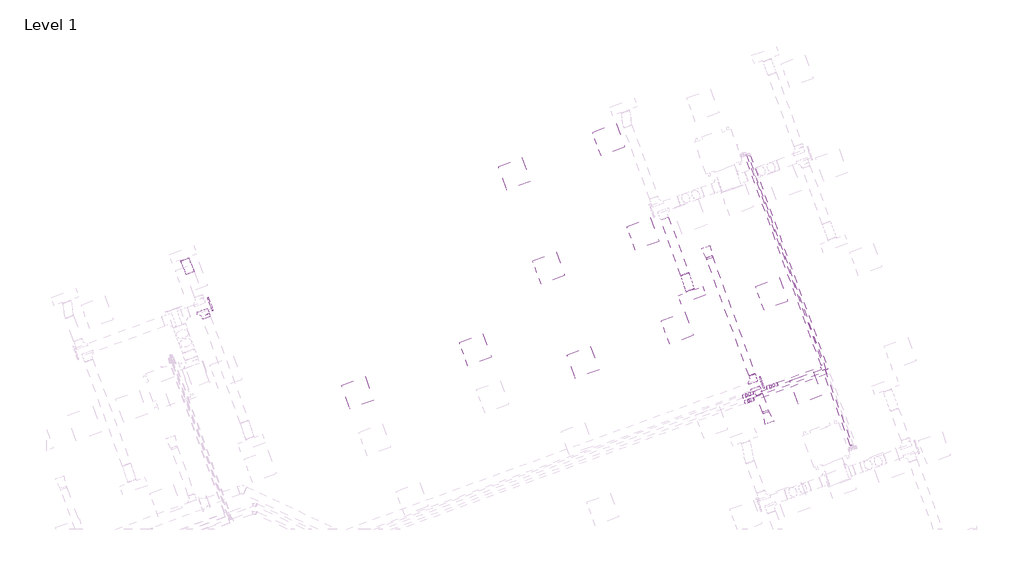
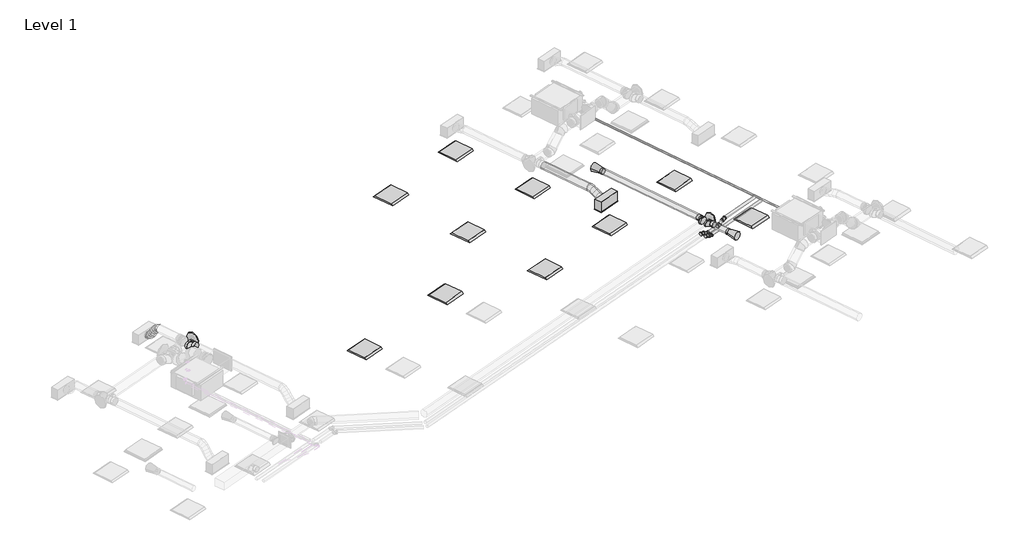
# One storey, part 28 of 30: 10 light fixtures, 9 pipe segments, 6 pipe fittings, 5 duct fittings, 5 duct segments, 3 air terminals.
"""IFC4 building model written with IfcOpenShell, lengths in millimetres."""

from ifc_helpers import new_model, si_unit, point, frame, frame_2d, origin, place, context, project, spatial, circle_curve, ellipse_curve, trimmed, segment, composite_curve, outline, extrude, transform, mapped, element, save
from ifc_brep_helpers import plane_surface, cylinder_surface, advanced_brep
from components import air_terminal_b88b8e4d, air_terminal_0d1c431e, supply_diffuser_with_plenum_linear_slot_hosted_2b730595, dw144_round_blank_end_standard_e3d0b58b, dw144_round_blank_end_standard_5beff049, dw144_round_shoe_branch_slip_joint1_standard_2_15a2edd8, dw144_round_shoe_branch_slip_joint1_standard_2_ce91aa06, dw144_round_shoe_branch_slip_joint1_standard_2_54bfcc3c, light_fixture_1c7c1157, light_fixture_b730b5ca, elbow_threaded_gmi_standard_e52ea759

model = new_model("IFC4")

# Units and contexts
model_context = context("Model", 3, world=origin())
ifc_project = project(units=[si_unit("LENGTHUNIT", "METRE", prefix="MILLI")], contexts=[model_context])

# Site, building, storey
site = spatial("IfcSite", under=ifc_project)
building = spatial("IfcBuilding", under=site)
storey = spatial("IfcBuildingStorey", under=building, Name="Level 1", Elevation=3900.0)

# Air terminals
placement = place(None, origin())
air_terminal_shape = air_terminal_b88b8e4d(model_context)
element("IfcAirTerminal", 1, ObjectType="Supply_Bell_Mouth_Grille : Supply_Bell_Mouth_Grille", at=placement, inside=storey, context=model_context, shape_type="MappedRepresentation", body=[
    mapped(air_terminal_shape, transform((58081.5319053, 19738.0197173, 7000.0), x_axis=(-0.3420201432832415, 0.9396926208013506, 0.0), y_axis=(-0.9396926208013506, -0.3420201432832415, 0.0), z_axis=(0.0, 0.0, 1.0))),
])
air_terminal_2_shape = air_terminal_0d1c431e(model_context)
element("IfcAirTerminal", 2, ObjectType="Supply_Bell_Mouth_Grille : Supply_Bell_Mouth_Grille", at=placement, inside=storey, context=model_context, shape_type="MappedRepresentation", body=[
    mapped(air_terminal_2_shape, transform((59441.0619748, 16002.7415496, 7000.0), x_axis=(0.3420201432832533, -0.9396926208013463, 0.0), y_axis=(0.9396926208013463, 0.3420201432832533, 0.0), z_axis=(0.0, 0.0, 1.0))),
])
supply_diffuser_with_plenum_linear_slot_hosted_shape = supply_diffuser_with_plenum_linear_slot_hosted_2b730595(model_context)
element("IfcAirTerminal", 3, ObjectType="Supply Diffuser with Plenum - Linear Slot - Hosted : 24\" x 8\"-200 In Inlet  4-Slot", at=placement, inside=storey, context=model_context, shape_type="MappedRepresentation", body=[
    mapped(supply_diffuser_with_plenum_linear_slot_hosted_shape, transform((57672.5704775, 18817.9253945, 6700.0), x_axis=(0.939692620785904, 0.342020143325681, 0.0), y_axis=(0.342020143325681, -0.939692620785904, 0.0), z_axis=(0.0, 0.0, -1.0))),
])

# Duct fittings
dw144_round_blank_end_standard_shape = dw144_round_blank_end_standard_e3d0b58b(model_context)
element("IfcDuctFitting", 4, ObjectType="DW144 Round Blank End : Standard", at=placement, inside=storey, context=model_context, shape_type="MappedRepresentation", body=[
    mapped(dw144_round_blank_end_standard_shape, transform((46143.4834138, 18600.4800046, 6972.2088531), x_axis=(0.9396926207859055, 0.3420201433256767, 0.0), y_axis=(-0.3420201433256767, 0.9396926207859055, 0.0), z_axis=(0.0, 0.0, 1.0))),
])
dw144_round_blank_end_standard_2_shape = dw144_round_blank_end_standard_5beff049(model_context)
element("IfcDuctFitting", 5, ObjectType="DW144 Round Blank End : Standard", at=placement, inside=storey, context=model_context, shape_type="MappedRepresentation", body=[
    mapped(dw144_round_blank_end_standard_2_shape, transform((59334.3056083, 16727.5734979, 7000.0), x_axis=(0.9396926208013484, 0.34202014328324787, 0.0), y_axis=(-0.34202014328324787, 0.9396926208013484, 0.0), z_axis=(0.0, 0.0, 1.0))),
])
dw144_round_shoe_branch_slip_joint1_standard_2_shape = dw144_round_shoe_branch_slip_joint1_standard_2_15a2edd8(model_context)
element("IfcDuctFitting", 6, ObjectType="DW144 Round Shoe Branch - Slip Joint1 : Standard 2", at=placement, inside=storey, context=model_context, shape_type="MappedRepresentation", body=[
    mapped(dw144_round_shoe_branch_slip_joint1_standard_2_shape, transform((46009.9908483, 18418.8704627, 6972.2088531), x_axis=(0.3420201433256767, -0.9396926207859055, 0.0), y_axis=(0.9396926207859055, 0.3420201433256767, 0.0), z_axis=(0.0, 0.0, 1.0))),
])
dw144_round_shoe_branch_slip_joint1_standard_2_2_shape = dw144_round_shoe_branch_slip_joint1_standard_2_ce91aa06(model_context)
element("IfcDuctFitting", 7, ObjectType="DW144 Round Shoe Branch - Slip Joint1 : Standard 2", at=placement, inside=storey, context=model_context, shape_type="MappedRepresentation", body=[
    mapped(dw144_round_shoe_branch_slip_joint1_standard_2_2_shape, transform((59161.4153402, 16771.0643638, 7000.0), x_axis=(-0.34202014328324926, 0.9396926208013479, 0.0), y_axis=(0.9396926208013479, 0.34202014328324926, 0.0), z_axis=(0.0, 0.0, -1.0))),
])
dw144_round_shoe_branch_slip_joint1_standard_2_3_shape = dw144_round_shoe_branch_slip_joint1_standard_2_54bfcc3c(model_context)
element("IfcDuctFitting", 8, ObjectType="DW144 Round Shoe Branch - Slip Joint1 : Standard 2", at=placement, inside=storey, context=model_context, shape_type="MappedRepresentation", body=[
    mapped(dw144_round_shoe_branch_slip_joint1_standard_2_3_shape, transform((59229.8193689, 16583.1258396, 7000.0), x_axis=(0.3420201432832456, -0.9396926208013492, 0.0), y_axis=(-0.9396926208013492, -0.3420201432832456, 0.0), z_axis=(0.0, 0.0, -1.0))),
])

# Duct segments
element("IfcDuctSegment", 9, ObjectType="DW144 Segmented Bend / Shoe Branch", at=placement, inside=storey, context=model_context, shape_type="SweptSolid", body=[
    extrude(outline(composite_curve([segment(trimmed(circle_curve(frame_2d((0.0, 100.0)), 100.0), [point((100.0, 100.0))], [point((0.0, 0.0))], False, "CARTESIAN"), True, "CONTINUOUS"), segment(trimmed(circle_curve(frame_2d((0.0, 100.0)), 100.0), [point((0.0, 0.0))], [point((-100.0, 100.0))], False, "CARTESIAN"), True, "CONTINUOUS"), segment(trimmed(circle_curve(frame_2d((0.0, 100.0)), 100.0), [point((-100.0, 100.0))], [point((0.0, 200.0))], False, "CARTESIAN"), True, "CONTINUOUS"), segment(trimmed(circle_curve(frame_2d((0.0, 100.0)), 100.0), [point((0.0, 200.0))], [point((100.0, 100.0))], False, "CARTESIAN"), True, "CONTINUOUS")], self_intersect=False)), frame((57501.7133926, 19321.5598874, 7072.2088531), z_axis=(-0.34202014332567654, 0.9396926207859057, 0.0), x_axis=(0.9396926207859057, 0.34202014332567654, 0.0)), (0.0, 0.0, 1.0), 1423.0964067),
])
element("IfcDuctSegment", 10, ObjectType="DW144 Segmented Bend / Shoe Branch", at=placement, inside=storey, context=model_context, shape_type="SweptSolid", body=[
    extrude(outline(composite_curve([segment(trimmed(circle_curve(frame_2d((0.0, 75.0)), 75.0), [point((75.0, 75.0))], [point((0.0, 0.0))], False, "CARTESIAN"), True, "CONTINUOUS"), segment(trimmed(circle_curve(frame_2d((0.0, 75.0)), 75.0), [point((0.0, 0.0))], [point((-75.0, 75.0))], False, "CARTESIAN"), True, "CONTINUOUS"), segment(trimmed(circle_curve(frame_2d((0.0, 75.0)), 75.0), [point((-75.0, 75.0))], [point((0.0, 150.0))], False, "CARTESIAN"), True, "CONTINUOUS"), segment(trimmed(circle_curve(frame_2d((0.0, 75.0)), 75.0), [point((0.0, 150.0))], [point((75.0, 75.0))], False, "CARTESIAN"), True, "CONTINUOUS")], self_intersect=False)), frame((59110.1123187, 16912.0182569, 7075.0), z_axis=(-0.3420201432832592, 0.9396926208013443, 0.0), x_axis=(0.9396926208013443, 0.3420201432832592, 0.0)), (0.0, 0.0, 1.0), 3007.3679391),
])
element("IfcDuctSegment", 11, ObjectType="DW144 Segmented Bend / Shoe Branch", at=placement, inside=storey, context=model_context, shape_type="SweptSolid", body=[
    extrude(outline(composite_curve([segment(trimmed(circle_curve(frame_2d((0.0, -75.0)), 75.0), [point((-74.9999999, -75.0))], [point((0.0, 0.0))], False, "CARTESIAN"), True, "CONTINUOUS"), segment(trimmed(circle_curve(frame_2d((0.0, -75.0)), 75.0), [point((0.0, 0.0))], [point((75.0, -75.0))], False, "CARTESIAN"), True, "CONTINUOUS"), segment(trimmed(circle_curve(frame_2d((0.0, -75.0)), 75.0), [point((75.0, -75.0))], [point((0.0, -150.0))], False, "CARTESIAN"), True, "CONTINUOUS"), segment(trimmed(circle_curve(frame_2d((0.0, -75.0)), 75.0), [point((0.0, -150.0))], [point((-74.9999999, -75.0))], False, "CARTESIAN"), True, "CONTINUOUS")], self_intersect=False)), frame((59441.0619748, 16002.7415496, 6925.0), z_axis=(-0.3420201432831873, 0.9396926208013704, 0.0), x_axis=(0.9396926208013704, 0.3420201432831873, 0.0)), (0.0, 0.0, 1.0), 467.6320609),
])
element("IfcDuctSegment", 12, ObjectType="Flex - Round", at=placement, inside=storey, context=model_context, shape_type="AdvancedBrep", body=[
    advanced_brep(
    [(45577.4216444, 19314.9641429, 6972.2088531), (45671.3909064, 19349.1661573, 6872.2088531), (45765.3601685, 19383.3681716, 6972.2088531), (45671.3909064, 19349.1661573, 7072.2088531), (45568.2396678, 19340.1914162, 6972.2088531), (45670.4182615, 19351.8384772, 6872.2088531), (45755.5423466, 19410.3424157, 6972.2088531), (45653.3637529, 19398.6953546, 7072.2088531), (45446.2008894, 19640.8463168, 6654.4), (45540.1701515, 19675.0483311, 6754.4), (45634.1394136, 19709.2503454, 6654.4), (45540.1701515, 19675.0483311, 6554.4), (45556.7426592, 19369.9313696, 6955.2577246), (45670.3653246, 19351.9754122, 6872.1308032), (45743.1589491, 19442.3752406, 6953.9508376), (45629.5362837, 19460.331198, 7037.077759), (45538.2397067, 19415.8828074, 6910.4446759), (45658.1337018, 19382.3522212, 6842.5065414), (45724.1702572, 19489.5329953, 6907.9613569), (45604.2762621, 19523.0635816, 6975.8994914), (45521.2301085, 19455.896393, 6848.7990481), (45644.2138299, 19415.0974971, 6792.0585982), (45706.9213474, 19530.1095404, 6845.4484239), (45583.9376261, 19570.9084362, 6902.1888738), (45504.6397105, 19494.1049479, 6781.1604292), (45627.6234319, 19453.3060521, 6724.4199793), (45690.3309494, 19568.3180954, 6777.809805), (45567.3472281, 19609.1169912, 6834.550255), (45487.3908007, 19534.681493, 6718.6474963), (45607.2847958, 19501.1509068, 6650.7093618), (45673.3213512, 19608.331681, 6716.1641773), (45553.4273561, 19641.8622672, 6784.1023118), (45468.4021089, 19581.8392477, 6672.6580156), (45582.0247743, 19563.8832903, 6589.5310941), (45654.8183988, 19654.2831187, 6671.3511285), (45541.1957334, 19672.2390762, 6754.47805), (45456.0187113, 19613.8720727, 6654.4), (45558.1973051, 19625.5191337, 6554.4), (45643.3213901, 19684.0230722, 6654.4), (45541.1427964, 19672.3760111, 6754.4)],
    [
        (0, 1, circle_curve(frame((45671.3909064, 19349.1661573, 6972.2088531), z_axis=(0.34202014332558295, -0.9396926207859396, 0.0), x_axis=(-0.9396926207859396, -0.34202014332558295, 0.0)), 100.0)),
        (1, 2, circle_curve(frame((45671.3909064, 19349.1661573, 6972.2088531), z_axis=(0.34202014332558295, -0.9396926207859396, 0.0), x_axis=(-0.9396926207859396, -0.34202014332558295, 0.0)), 100.0)),
        (2, 3, circle_curve(frame((45671.3909064, 19349.1661573, 6972.2088531), z_axis=(0.34202014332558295, -0.9396926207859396, 0.0), x_axis=(-0.9396926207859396, -0.34202014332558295, 0.0)), 100.0)),
        (3, 0, circle_curve(frame((45671.3909064, 19349.1661573, 6972.2088531), z_axis=(0.34202014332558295, -0.9396926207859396, 0.0), x_axis=(-0.9396926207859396, -0.34202014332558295, 0.0)), 100.0)),
        (0, 4),
        (4, 5, ellipse_curve(frame((45661.8910072, 19375.2669159, 6972.2088531), z_axis=(0.3403228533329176, -0.9086596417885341, 0.24190496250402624), x_axis=(0.04882477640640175, -0.23983797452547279, -0.9695843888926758)), 103.0653669, 100.0)),
        (5, 1),
        (5, 6, ellipse_curve(frame((45661.8910072, 19375.2669159, 6972.2088531), z_axis=(0.3403228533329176, -0.9086596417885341, 0.24190496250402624), x_axis=(0.04882477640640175, -0.23983797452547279, -0.9695843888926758)), 103.0653669, 100.0)),
        (6, 2),
        (6, 7, ellipse_curve(frame((45661.8910072, 19375.2669159, 6972.2088531), z_axis=(0.3403228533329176, -0.9086596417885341, 0.24190496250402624), x_axis=(0.04882477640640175, -0.23983797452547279, -0.9695843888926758)), 103.0653669, 100.0)),
        (7, 3),
        (7, 4, ellipse_curve(frame((45661.8910072, 19375.2669159, 6972.2088531), z_axis=(0.3403228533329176, -0.9086596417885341, 0.24190496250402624), x_axis=(0.04882477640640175, -0.23983797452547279, -0.9695843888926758)), 103.0653669, 100.0)),
        (8, 9, circle_curve(frame((45540.1701515, 19675.0483311, 6654.4), z_axis=(-0.34202014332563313, 0.9396926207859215, 0.0), x_axis=(-0.9396926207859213, -0.3420201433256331, 0.0)), 100.0)),
        (9, 10, circle_curve(frame((45540.1701515, 19675.0483311, 6654.4), z_axis=(-0.34202014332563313, 0.9396926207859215, 0.0), x_axis=(-0.9396926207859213, -0.3420201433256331, 0.0)), 100.0)),
        (10, 11, circle_curve(frame((45540.1701515, 19675.0483311, 6654.4), z_axis=(-0.34202014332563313, 0.9396926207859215, 0.0), x_axis=(-0.9396926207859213, -0.3420201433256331, 0.0)), 100.0)),
        (11, 8, circle_curve(frame((45540.1701515, 19675.0483311, 6654.4), z_axis=(-0.34202014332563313, 0.9396926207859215, 0.0), x_axis=(-0.9396926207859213, -0.3420201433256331, 0.0)), 100.0)),
        (4, 12),
        (12, 13, ellipse_curve(frame((45649.9508041, 19406.1533051, 6954.6042811), z_axis=(0.2999728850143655, -0.7615413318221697, 0.5745181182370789), x_axis=(0.1679874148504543, -0.5506717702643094, -0.8176434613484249)), 100.7674807, 100.0)),
        (13, 5),
        (13, 14, ellipse_curve(frame((45649.9508041, 19406.1533051, 6954.6042811), z_axis=(0.2999728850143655, -0.7615413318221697, 0.5745181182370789), x_axis=(0.1679874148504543, -0.5506717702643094, -0.8176434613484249)), 100.7674807, 100.0)),
        (14, 6),
        (14, 15, ellipse_curve(frame((45649.9508041, 19406.1533051, 6954.6042811), z_axis=(0.2999728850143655, -0.7615413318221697, 0.5745181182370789), x_axis=(0.1679874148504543, -0.5506717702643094, -0.8176434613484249)), 100.7674807, 100.0)),
        (15, 7),
        (15, 12, ellipse_curve(frame((45649.9508041, 19406.1533051, 6954.6042811), z_axis=(0.2999728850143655, -0.7615413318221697, 0.5745181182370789), x_axis=(0.1679874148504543, -0.5506717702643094, -0.8176434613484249)), 100.7674807, 100.0)),
        (12, 16),
        (16, 17, ellipse_curve(frame((45631.204982, 19452.7079014, 6909.2030164), z_axis=(0.2527878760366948, -0.6129236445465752, 0.7486139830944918), x_axis=(0.23302745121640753, -0.7123968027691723, -0.6619584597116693)), 100.6164456, 100.0)),
        (17, 13),
        (17, 18, ellipse_curve(frame((45631.204982, 19452.7079014, 6909.2030164), z_axis=(0.2527878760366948, -0.6129236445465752, 0.7486139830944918), x_axis=(0.23302745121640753, -0.7123968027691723, -0.6619584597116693)), 100.6164456, 100.0)),
        (18, 14),
        (18, 19, ellipse_curve(frame((45631.204982, 19452.7079014, 6909.2030164), z_axis=(0.2527878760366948, -0.6129236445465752, 0.7486139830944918), x_axis=(0.23302745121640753, -0.7123968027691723, -0.6619584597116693)), 100.6164456, 100.0)),
        (19, 15),
        (19, 16, ellipse_curve(frame((45631.204982, 19452.7079014, 6909.2030164), z_axis=(0.2527878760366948, -0.6129236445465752, 0.7486139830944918), x_axis=(0.23302745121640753, -0.7123968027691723, -0.6619584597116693)), 100.6164456, 100.0)),
        (16, 20),
        (20, 21, ellipse_curve(frame((45614.075728, 19493.0029667, 6847.123736), z_axis=(0.21727355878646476, -0.5059600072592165, 0.8347434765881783), x_axis=(0.26645019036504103, -0.7919526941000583, -0.5493771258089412)), 100.0487397, 100.0)),
        (21, 17),
        (21, 22, ellipse_curve(frame((45614.075728, 19493.0029667, 6847.123736), z_axis=(0.21727355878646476, -0.5059600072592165, 0.8347434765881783), x_axis=(0.26645019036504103, -0.7919526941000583, -0.5493771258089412)), 100.0487397, 100.0)),
        (22, 18),
        (22, 23, ellipse_curve(frame((45614.075728, 19493.0029667, 6847.123736), z_axis=(0.21727355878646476, -0.5059600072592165, 0.8347434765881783), x_axis=(0.26645019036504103, -0.7919526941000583, -0.5493771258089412)), 100.0487397, 100.0)),
        (23, 19),
        (23, 20, ellipse_curve(frame((45614.075728, 19493.0029667, 6847.123736), z_axis=(0.21727355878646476, -0.5059600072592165, 0.8347434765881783), x_axis=(0.26645019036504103, -0.7919526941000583, -0.5493771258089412)), 100.0487397, 100.0)),
        (20, 24),
        (24, 25, ellipse_curve(frame((45597.48533, 19531.2115217, 6779.4851171), z_axis=(0.21727355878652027, -0.5059600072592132, 0.8347434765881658), x_axis=(-0.2664501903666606, 0.7919526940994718, 0.5493771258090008)), 100.0487397, 100.0)),
        (25, 21),
        (25, 26, ellipse_curve(frame((45597.48533, 19531.2115217, 6779.4851171), z_axis=(0.21727355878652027, -0.5059600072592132, 0.8347434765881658), x_axis=(-0.2664501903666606, 0.7919526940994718, 0.5493771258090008)), 100.0487397, 100.0)),
        (26, 22),
        (26, 27, ellipse_curve(frame((45597.48533, 19531.2115217, 6779.4851171), z_axis=(0.21727355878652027, -0.5059600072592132, 0.8347434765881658), x_axis=(-0.2664501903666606, 0.7919526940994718, 0.5493771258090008)), 100.0487397, 100.0)),
        (27, 23),
        (27, 24, ellipse_curve(frame((45597.48533, 19531.2115217, 6779.4851171), z_axis=(0.21727355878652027, -0.5059600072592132, 0.8347434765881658), x_axis=(-0.2664501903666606, 0.7919526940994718, 0.5493771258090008)), 100.0487397, 100.0)),
        (24, 28),
        (28, 29, ellipse_curve(frame((45580.356076, 19571.506587, 6717.4058368), z_axis=(0.25278787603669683, -0.61292364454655, 0.7486139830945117), x_axis=(-0.2330274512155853, 0.7123968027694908, 0.6619584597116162)), 100.6164456, 100.0)),
        (29, 25),
        (29, 30, ellipse_curve(frame((45580.356076, 19571.506587, 6717.4058368), z_axis=(0.25278787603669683, -0.61292364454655, 0.7486139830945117), x_axis=(-0.2330274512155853, 0.7123968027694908, 0.6619584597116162)), 100.6164456, 100.0)),
        (30, 26),
        (30, 31, ellipse_curve(frame((45580.356076, 19571.506587, 6717.4058368), z_axis=(0.25278787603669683, -0.61292364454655, 0.7486139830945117), x_axis=(-0.2330274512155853, 0.7123968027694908, 0.6619584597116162)), 100.6164456, 100.0)),
        (31, 27),
        (31, 28, ellipse_curve(frame((45580.356076, 19571.506587, 6717.4058368), z_axis=(0.25278787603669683, -0.61292364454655, 0.7486139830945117), x_axis=(-0.2330274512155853, 0.7123968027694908, 0.6619584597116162)), 100.6164456, 100.0)),
        (28, 32),
        (32, 33, ellipse_curve(frame((45561.6102538, 19618.0611832, 6672.004572), z_axis=(0.2999728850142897, -0.7615413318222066, 0.5745181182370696), x_axis=(-0.1679874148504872, 0.5506717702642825, 0.817643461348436)), 100.7674807, 100.0)),
        (33, 29),
        (33, 34, ellipse_curve(frame((45561.6102538, 19618.0611832, 6672.004572), z_axis=(0.2999728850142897, -0.7615413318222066, 0.5745181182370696), x_axis=(-0.1679874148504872, 0.5506717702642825, 0.817643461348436)), 100.7674807, 100.0)),
        (34, 30),
        (34, 35, ellipse_curve(frame((45561.6102538, 19618.0611832, 6672.004572), z_axis=(0.2999728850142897, -0.7615413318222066, 0.5745181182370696), x_axis=(-0.1679874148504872, 0.5506717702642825, 0.817643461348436)), 100.7674807, 100.0)),
        (35, 31),
        (35, 32, ellipse_curve(frame((45561.6102538, 19618.0611832, 6672.004572), z_axis=(0.2999728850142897, -0.7615413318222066, 0.5745181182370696), x_axis=(-0.1679874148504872, 0.5506717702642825, 0.817643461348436)), 100.7674807, 100.0)),
        (32, 36),
        (36, 37, ellipse_curve(frame((45549.6700507, 19648.9475724, 6654.4), z_axis=(0.34032285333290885, -0.9086596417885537, 0.24190496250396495), x_axis=(-0.04882477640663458, 0.2398379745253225, 0.9695843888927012)), 103.0653669, 100.0)),
        (37, 33),
        (37, 38, ellipse_curve(frame((45549.6700507, 19648.9475724, 6654.4), z_axis=(0.34032285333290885, -0.9086596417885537, 0.24190496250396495), x_axis=(-0.04882477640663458, 0.2398379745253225, 0.9695843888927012)), 103.0653669, 100.0)),
        (38, 34),
        (38, 39, ellipse_curve(frame((45549.6700507, 19648.9475724, 6654.4), z_axis=(0.34032285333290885, -0.9086596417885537, 0.24190496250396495), x_axis=(-0.04882477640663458, 0.2398379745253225, 0.9695843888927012)), 103.0653669, 100.0)),
        (39, 35),
        (39, 36, ellipse_curve(frame((45549.6700507, 19648.9475724, 6654.4), z_axis=(0.34032285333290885, -0.9086596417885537, 0.24190496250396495), x_axis=(-0.04882477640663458, 0.2398379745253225, 0.9695843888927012)), 103.0653669, 100.0)),
        (36, 8),
        (11, 37),
        (10, 38),
        (9, 39),
    ],
    [
        plane_surface(frame((45671.3909064, 19349.1661573, 7072.2088531), z_axis=(0.34202014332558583, -0.9396926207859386, 0.0), x_axis=(0.9396926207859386, 0.34202014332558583, 0.0))),
        cylinder_surface(frame((45671.3909064, 19349.1661573, 6972.2088531), z_axis=(0.34202014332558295, -0.9396926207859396, 0.0), x_axis=(-0.9396926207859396, -0.34202014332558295, 0.0)), 100.0),
        plane_surface(frame((45540.1701515, 19675.0483311, 6754.4), z_axis=(-0.3420201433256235, 0.939692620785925, 0.0), x_axis=(0.939692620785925, 0.3420201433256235, 0.0))),
        cylinder_surface(frame((45661.8910072, 19375.2669159, 6972.2088531), z_axis=(0.3183818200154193, -0.8235760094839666, 0.46942046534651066), x_axis=(-0.9335538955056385, -0.3584104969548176, 0.004363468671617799)), 100.0),
        cylinder_surface(frame((45649.9508041, 19406.1533051, 6954.6042811), z_axis=(0.27699455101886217, -0.6879063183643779, 0.6708643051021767), x_axis=(-0.9308004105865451, -0.3654007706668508, 0.009637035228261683)), 100.0),
        cylinder_surface(frame((45631.204982, 19452.7079014, 6909.2030164), z_axis=(0.22548369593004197, -0.5304305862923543, 0.8171906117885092), x_axis=(-0.928718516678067, -0.370448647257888, 0.01580242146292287)), 100.0),
        cylinder_surface(frame((45614.075728, 19493.0029667, 6847.123736), z_axis=(0.2088517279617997, -0.4809964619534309, 0.8514830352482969), x_axis=(-0.9282132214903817, -0.3716253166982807, 0.017743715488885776)), 100.0),
        cylinder_surface(frame((45597.48533, 19531.2115217, 6779.4851171), z_axis=(0.22548369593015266, -0.5304305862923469, 0.8171906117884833), x_axis=(-0.9287185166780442, -0.3704486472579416, 0.01580242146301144)), 100.0),
        cylinder_surface(frame((45580.356076, 19571.506587, 6717.4058368), z_axis=(0.2769945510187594, -0.6879063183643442, 0.6708643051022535), x_axis=(-0.9308004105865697, -0.3654007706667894, 0.0096370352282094)), 100.0),
        cylinder_surface(frame((45561.6102538, 19618.0611832, 6672.004572), z_axis=(0.3183818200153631, -0.8235760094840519, 0.4694204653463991), x_axis=(-0.9335538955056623, -0.35841049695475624, 0.004363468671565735)), 100.0),
        cylinder_surface(frame((45549.6700507, 19648.9475724, 6654.4), z_axis=(0.3420201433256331, -0.9396926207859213, 0.0), x_axis=(-0.9396926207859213, -0.3420201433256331, 0.0)), 100.0),
    ],
    [
        (0, [[1, 2, 3, 4]]),
        (1, [[-1, 5, 6, 7]]),
        (1, [[-2, -7, 8, 9]]),
        (1, [[-3, -9, 10, 11]]),
        (1, [[-4, -11, 12, -5]]),
        (2, [[13, 14, 15, 16]]),
        (3, [[-6, 17, 18, 19]]),
        (3, [[-8, -19, 20, 21]]),
        (3, [[-10, -21, 22, 23]]),
        (3, [[-12, -23, 24, -17]]),
        (4, [[-18, 25, 26, 27]]),
        (4, [[-20, -27, 28, 29]]),
        (4, [[-22, -29, 30, 31]]),
        (4, [[-24, -31, 32, -25]]),
        (5, [[-26, 33, 34, 35]]),
        (5, [[-28, -35, 36, 37]]),
        (5, [[-30, -37, 38, 39]]),
        (5, [[-32, -39, 40, -33]]),
        (6, [[-34, 41, 42, 43]]),
        (6, [[-36, -43, 44, 45]]),
        (6, [[-38, -45, 46, 47]]),
        (6, [[-40, -47, 48, -41]]),
        (7, [[-42, 49, 50, 51]]),
        (7, [[-44, -51, 52, 53]]),
        (7, [[-46, -53, 54, 55]]),
        (7, [[-48, -55, 56, -49]]),
        (8, [[-50, 57, 58, 59]]),
        (8, [[-52, -59, 60, 61]]),
        (8, [[-54, -61, 62, 63]]),
        (8, [[-56, -63, 64, -57]]),
        (9, [[-58, 65, 66, 67]]),
        (9, [[-60, -67, 68, 69]]),
        (9, [[-62, -69, 70, 71]]),
        (9, [[-64, -71, 72, -65]]),
        (10, [[-66, 73, -16, 74]]),
        (10, [[-68, -74, -15, 75]]),
        (10, [[-70, -75, -14, 76]]),
        (10, [[-72, -76, -13, -73]]),
    ],
),
])
element("IfcDuctSegment", 13, ObjectType="Flex - Round", at=placement, inside=storey, context=model_context, shape_type="AdvancedBrep", body=[
    advanced_brep(
    [(57595.6826547, 19355.7619017, 6972.2088531), (57501.7133926, 19321.5598874, 6872.2088531), (57407.7441305, 19287.3578731, 6972.2088531), (57501.7133926, 19321.5598874, 7072.2088531), (57602.0751352, 19338.1987057, 6972.2088531), (57504.0880309, 19315.0356224, 6872.2088531), (57413.4106568, 19271.7892201, 6972.2088531), (57511.3977612, 19294.9523034, 7072.2088531), (57723.1031814, 18971.4683716, 6854.4), (57629.1339193, 18937.2663573, 6954.4), (57535.1646572, 18903.064343, 6854.4), (57629.1339193, 18937.2663573, 6754.4), (57630.0801913, 19255.7923743, 6953.3948712), (57525.3978158, 19252.3304736, 6857.8927986), (57440.2059937, 19192.94255, 6954.2075685), (57544.8883691, 19196.4044506, 7049.7096411), (57660.6033689, 19160.0772406, 6912.5736092), (57553.2354649, 19165.0366693, 6820.6631242), (57470.243943, 19098.7490041, 6914.035244), (57577.611847, 19093.7895755, 7005.9457289), (57690.6413182, 19065.8836947, 6872.4012846), (57585.9589428, 19062.4217941, 6776.899212), (57500.7671206, 19003.0338704, 6873.213982), (57605.4494961, 19006.4957711, 6968.7160546), (57717.4366551, 18987.0370246, 6854.4), (57619.4495507, 18963.8739413, 6754.4), (57528.7721766, 18920.627539, 6854.4), (57626.759281, 18943.7906223, 6954.4)],
    [
        (0, 1, circle_curve(frame((57501.7133926, 19321.5598874, 6972.2088531), z_axis=(-0.3420201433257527, 0.9396926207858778, 0.0), x_axis=(0.9396926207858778, 0.3420201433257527, 0.0)), 100.0)),
        (1, 2, circle_curve(frame((57501.7133926, 19321.5598874, 6972.2088531), z_axis=(-0.3420201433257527, 0.9396926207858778, 0.0), x_axis=(0.9396926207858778, 0.3420201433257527, 0.0)), 100.0)),
        (2, 3, circle_curve(frame((57501.7133926, 19321.5598874, 6972.2088531), z_axis=(-0.3420201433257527, 0.9396926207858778, 0.0), x_axis=(0.9396926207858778, 0.3420201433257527, 0.0)), 100.0)),
        (3, 0, circle_curve(frame((57501.7133926, 19321.5598874, 6972.2088531), z_axis=(-0.3420201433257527, 0.9396926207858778, 0.0), x_axis=(0.9396926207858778, 0.3420201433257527, 0.0)), 100.0)),
        (0, 4),
        (4, 5, ellipse_curve(frame((57507.742896, 19304.9939629, 6972.2088531), z_axis=(-0.3301492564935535, 0.9379298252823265, 0.10625022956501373), x_axis=(-0.1288548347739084, 0.06672604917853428, -0.9894160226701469)), 100.5749435, 100.0)),
        (5, 1),
        (5, 6, ellipse_curve(frame((57507.742896, 19304.9939629, 6972.2088531), z_axis=(-0.3301492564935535, 0.9379298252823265, 0.10625022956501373), x_axis=(-0.1288548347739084, 0.06672604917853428, -0.9894160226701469)), 100.5749435, 100.0)),
        (6, 2),
        (6, 7, ellipse_curve(frame((57507.742896, 19304.9939629, 6972.2088531), z_axis=(-0.3301492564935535, 0.9379298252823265, 0.10625022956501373), x_axis=(-0.1288548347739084, 0.06672604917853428, -0.9894160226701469)), 100.5749435, 100.0)),
        (7, 3),
        (7, 4, ellipse_curve(frame((57507.742896, 19304.9939629, 6972.2088531), z_axis=(-0.3301492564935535, 0.9379298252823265, 0.10625022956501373), x_axis=(-0.1288548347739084, 0.06672604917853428, -0.9894160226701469)), 100.5749435, 100.0)),
        (8, 9, circle_curve(frame((57629.1339193, 18937.2663573, 6854.4), z_axis=(0.3420201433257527, -0.9396926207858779, 0.0), x_axis=(0.9396926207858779, 0.3420201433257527, 0.0)), 100.0)),
        (9, 10, circle_curve(frame((57629.1339193, 18937.2663573, 6854.4), z_axis=(0.3420201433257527, -0.9396926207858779, 0.0), x_axis=(0.9396926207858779, 0.3420201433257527, 0.0)), 100.0)),
        (10, 11, circle_curve(frame((57629.1339193, 18937.2663573, 6854.4), z_axis=(0.3420201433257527, -0.9396926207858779, 0.0), x_axis=(0.9396926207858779, 0.3420201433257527, 0.0)), 100.0)),
        (11, 8, circle_curve(frame((57629.1339193, 18937.2663573, 6854.4), z_axis=(0.3420201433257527, -0.9396926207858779, 0.0), x_axis=(0.9396926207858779, 0.3420201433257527, 0.0)), 100.0)),
        (4, 12),
        (12, 13, ellipse_curve(frame((57535.1430925, 19224.3674621, 6953.8012198), z_axis=(-0.2991195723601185, 0.9074777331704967, 0.29497736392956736), x_axis=(-0.19007782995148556, 0.2462699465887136, -0.9503796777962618)), 100.3796227, 100.0)),
        (13, 5),
        (13, 14, ellipse_curve(frame((57535.1430925, 19224.3674621, 6953.8012198), z_axis=(-0.2991195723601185, 0.9074777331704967, 0.29497736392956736), x_axis=(-0.19007782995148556, 0.2462699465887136, -0.9503796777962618)), 100.3796227, 100.0)),
        (14, 6),
        (14, 15, ellipse_curve(frame((57535.1430925, 19224.3674621, 6953.8012198), z_axis=(-0.2991195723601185, 0.9074777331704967, 0.29497736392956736), x_axis=(-0.19007782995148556, 0.2462699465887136, -0.9503796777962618)), 100.3796227, 100.0)),
        (15, 7),
        (15, 12, ellipse_curve(frame((57535.1430925, 19224.3674621, 6953.8012198), z_axis=(-0.2991195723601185, 0.9074777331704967, 0.29497736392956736), x_axis=(-0.19007782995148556, 0.2462699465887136, -0.9503796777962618)), 100.3796227, 100.0)),
        (12, 16),
        (16, 17, circle_curve(frame((57565.4236559, 19129.4131224, 6913.3044266), z_axis=(-0.28147295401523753, 0.8826479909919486, 0.3764379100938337), x_axis=(0.951797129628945, 0.30664118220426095, -0.007308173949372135)), 100.0)),
        (17, 13),
        (17, 18, circle_curve(frame((57565.4236559, 19129.4131224, 6913.3044266), z_axis=(-0.28147295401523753, 0.8826479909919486, 0.3764379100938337), x_axis=(0.951797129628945, 0.30664118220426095, -0.007308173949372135)), 100.0)),
        (18, 14),
        (18, 19, circle_curve(frame((57565.4236559, 19129.4131224, 6913.3044266), z_axis=(-0.28147295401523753, 0.8826479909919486, 0.3764379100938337), x_axis=(0.951797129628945, 0.30664118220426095, -0.007308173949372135)), 100.0)),
        (19, 15),
        (19, 16, circle_curve(frame((57565.4236559, 19129.4131224, 6913.3044266), z_axis=(-0.28147295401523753, 0.8826479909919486, 0.3764379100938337), x_axis=(0.951797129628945, 0.30664118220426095, -0.007308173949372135)), 100.0)),
        (16, 20),
        (20, 21, ellipse_curve(frame((57595.7042194, 19034.4587826, 6872.8076333), z_axis=(-0.2991195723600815, 0.9074777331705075, 0.29497736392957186), x_axis=(0.19007782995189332, -0.24626994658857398, 0.9503796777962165)), 100.3796227, 100.0)),
        (21, 17),
        (21, 22, ellipse_curve(frame((57595.7042194, 19034.4587826, 6872.8076333), z_axis=(-0.2991195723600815, 0.9074777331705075, 0.29497736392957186), x_axis=(0.19007782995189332, -0.24626994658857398, 0.9503796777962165)), 100.3796227, 100.0)),
        (22, 18),
        (22, 23, ellipse_curve(frame((57595.7042194, 19034.4587826, 6872.8076333), z_axis=(-0.2991195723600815, 0.9074777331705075, 0.29497736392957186), x_axis=(0.19007782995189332, -0.24626994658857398, 0.9503796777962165)), 100.3796227, 100.0)),
        (23, 19),
        (23, 20, ellipse_curve(frame((57595.7042194, 19034.4587826, 6872.8076333), z_axis=(-0.2991195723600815, 0.9074777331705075, 0.29497736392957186), x_axis=(0.19007782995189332, -0.24626994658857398, 0.9503796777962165)), 100.3796227, 100.0)),
        (20, 24),
        (24, 25, ellipse_curve(frame((57623.1044159, 18953.8322818, 6854.4), z_axis=(-0.3301492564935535, 0.9379298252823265, 0.1062502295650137), x_axis=(0.12885483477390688, -0.06672604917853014, 0.9894160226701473)), 100.5749435, 100.0)),
        (25, 21),
        (25, 26, ellipse_curve(frame((57623.1044159, 18953.8322818, 6854.4), z_axis=(-0.3301492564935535, 0.9379298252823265, 0.1062502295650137), x_axis=(0.12885483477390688, -0.06672604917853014, 0.9894160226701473)), 100.5749435, 100.0)),
        (26, 22),
        (26, 27, ellipse_curve(frame((57623.1044159, 18953.8322818, 6854.4), z_axis=(-0.3301492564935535, 0.9379298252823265, 0.1062502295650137), x_axis=(0.12885483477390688, -0.06672604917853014, 0.9894160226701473)), 100.5749435, 100.0)),
        (27, 23),
        (27, 24, ellipse_curve(frame((57623.1044159, 18953.8322818, 6854.4), z_axis=(-0.3301492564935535, 0.9379298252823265, 0.1062502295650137), x_axis=(0.12885483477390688, -0.06672604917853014, 0.9894160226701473)), 100.5749435, 100.0)),
        (24, 8),
        (11, 25),
        (10, 26),
        (9, 27),
    ],
    [
        plane_surface(frame((57501.7133926, 19321.5598874, 6872.2088531), z_axis=(-0.34202014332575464, 0.9396926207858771, 0.0), x_axis=(0.9396926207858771, 0.34202014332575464, 0.0))),
        cylinder_surface(frame((57501.7133926, 19321.5598874, 6972.2088531), z_axis=(-0.3420201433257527, 0.9396926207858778, 0.0), x_axis=(0.9396926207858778, 0.3420201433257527, 0.0)), 100.0),
        plane_surface(frame((57629.1339193, 18937.2663573, 6754.4), z_axis=(0.34202014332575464, -0.9396926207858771, 0.0), x_axis=(0.9396926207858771, 0.34202014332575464, 0.0))),
        cylinder_surface(frame((57507.742896, 19304.9939629, 6972.2088531), z_axis=(-0.3145037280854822, 0.925443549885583, 0.21128568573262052), x_axis=(0.9466601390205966, 0.32222593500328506, -0.002242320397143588)), 100.0),
        cylinder_surface(frame((57535.1430925, 19224.3674621, 6953.8012198), z_axis=(-0.2814729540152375, 0.8826479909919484, 0.3764379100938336), x_axis=(0.951797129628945, 0.30664118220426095, -0.007308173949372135)), 100.0),
        cylinder_surface(frame((57565.4236559, 19129.4131224, 6913.3044266), z_axis=(-0.28147295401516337, 0.8826479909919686, 0.3764379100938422), x_axis=(0.9517971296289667, 0.30664118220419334, -0.007308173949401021)), 100.0),
        cylinder_surface(frame((57595.7042194, 19034.4587826, 6872.8076333), z_axis=(-0.31450372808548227, 0.9254435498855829, 0.21128568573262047), x_axis=(0.9466601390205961, 0.32222593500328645, -0.002242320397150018)), 100.0),
        cylinder_surface(frame((57623.1044159, 18953.8322818, 6854.4), z_axis=(-0.3420201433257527, 0.9396926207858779, 0.0), x_axis=(0.9396926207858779, 0.3420201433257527, 0.0)), 100.0),
    ],
    [
        (0, [[1, 2, 3, 4]]),
        (1, [[-1, 5, 6, 7]]),
        (1, [[-2, -7, 8, 9]]),
        (1, [[-3, -9, 10, 11]]),
        (1, [[-4, -11, 12, -5]]),
        (2, [[13, 14, 15, 16]]),
        (3, [[-6, 17, 18, 19]]),
        (3, [[-8, -19, 20, 21]]),
        (3, [[-10, -21, 22, 23]]),
        (3, [[-12, -23, 24, -17]]),
        (4, [[-18, 25, 26, 27]]),
        (4, [[-20, -27, 28, 29]]),
        (4, [[-22, -29, 30, 31]]),
        (4, [[-24, -31, 32, -25]]),
        (5, [[-26, 33, 34, 35]]),
        (5, [[-28, -35, 36, 37]]),
        (5, [[-30, -37, 38, 39]]),
        (5, [[-32, -39, 40, -33]]),
        (6, [[-34, 41, 42, 43]]),
        (6, [[-36, -43, 44, 45]]),
        (6, [[-38, -45, 46, 47]]),
        (6, [[-40, -47, 48, -41]]),
        (7, [[-42, 49, -16, 50]]),
        (7, [[-44, -50, -15, 51]]),
        (7, [[-46, -51, -14, 52]]),
        (7, [[-48, -52, -13, -49]]),
    ],
),
])

# Light fixtures
light_fixture_shape = light_fixture_1c7c1157(model_context)
element("IfcLightFixture", 14, ObjectType="ELEKTRA Plain Recessed Lighting Fixture : 24\" x 24\" - 230", at=placement, inside=storey, context=model_context, shape_type="MappedRepresentation", body=[
    mapped(light_fixture_shape, transform((52312.6795837, 17126.211938, 6700.0), x_axis=(0.9396926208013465, 0.342020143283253, 0.0), y_axis=(0.342020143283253, -0.9396926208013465, 0.0), z_axis=(0.0, 0.0, -1.0))),
])
element("IfcLightFixture", 15, ObjectType="ELEKTRA Plain Recessed Lighting Fixture : 24\" x 24\" - 230", at=placement, inside=storey, context=model_context, shape_type="MappedRepresentation", body=[
    mapped(light_fixture_shape, transform((59396.0325972, 18468.4587374, 6700.0), x_axis=(0.9396926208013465, 0.342020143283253, 0.0), y_axis=(0.342020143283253, -0.9396926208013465, 0.0), z_axis=(0.0, 0.0, -1.0))),
])
element("IfcLightFixture", 16, ObjectType="ELEKTRA Plain Recessed Lighting Fixture : 24\" x 24\" - 230", at=placement, inside=storey, context=model_context, shape_type="MappedRepresentation", body=[
    mapped(light_fixture_shape, transform((55499.0736195, 22158.1349733, 6700.0), x_axis=(0.9396926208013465, 0.342020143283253, 0.0), y_axis=(0.342020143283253, -0.9396926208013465, 0.0), z_axis=(0.0, 0.0, -1.0))),
])
element("IfcLightFixture", 17, ObjectType="ELEKTRA Plain Recessed Lighting Fixture : 24\" x 24\" - 230", at=placement, inside=storey, context=model_context, shape_type="MappedRepresentation", body=[
    mapped(light_fixture_shape, transform((56319.9219634, 19902.8726834, 6700.0), x_axis=(0.9396926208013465, 0.342020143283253, 0.0), y_axis=(0.342020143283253, -0.9396926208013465, 0.0), z_axis=(0.0, 0.0, -1.0))),
])
element("IfcLightFixture", 18, ObjectType="ELEKTRA Plain Recessed Lighting Fixture : 24\" x 24\" - 230", at=placement, inside=storey, context=model_context, shape_type="MappedRepresentation", body=[
    mapped(light_fixture_shape, transform((57140.7703073, 17647.6103935, 6700.0), x_axis=(0.9396926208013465, 0.342020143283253, 0.0), y_axis=(0.342020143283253, -0.9396926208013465, 0.0), z_axis=(0.0, 0.0, -1.0))),
])
element("IfcLightFixture", 19, ObjectType="ELEKTRA Plain Recessed Lighting Fixture : 24\" x 24\" - 230", at=placement, inside=storey, context=model_context, shape_type="MappedRepresentation", body=[
    mapped(light_fixture_shape, transform((54064.6596735, 19082.0243395, 6700.0), x_axis=(0.9396926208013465, 0.342020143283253, 0.0), y_axis=(0.342020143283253, -0.9396926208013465, 0.0), z_axis=(0.0, 0.0, -1.0))),
])
light_fixture_2_shape = light_fixture_b730b5ca(model_context)
element("IfcLightFixture", 20, ObjectType="ELEKTRA EM Recessed Lighting Fixture : 24\" x 24\" - 230", at=placement, inside=storey, context=model_context, shape_type="MappedRepresentation", body=[
    mapped(light_fixture_2_shape, transform((49493.6017213, 16100.1515081, 6700.0), x_axis=(0.9396926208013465, 0.342020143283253, 0.0), y_axis=(0.342020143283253, -0.9396926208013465, 0.0), z_axis=(0.0, 0.0, -1.0))),
])
element("IfcLightFixture", 21, ObjectType="ELEKTRA EM Recessed Lighting Fixture : 24\" x 24\" - 230", at=placement, inside=storey, context=model_context, shape_type="MappedRepresentation", body=[
    mapped(light_fixture_2_shape, transform((60216.8809411, 16213.1964474, 6700.0), x_axis=(0.9396926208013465, 0.342020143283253, 0.0), y_axis=(0.342020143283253, -0.9396926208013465, 0.0), z_axis=(0.0, 0.0, -1.0))),
])
element("IfcLightFixture", 22, ObjectType="ELEKTRA EM Recessed Lighting Fixture : 24\" x 24\" - 230", at=placement, inside=storey, context=model_context, shape_type="MappedRepresentation", body=[
    mapped(light_fixture_2_shape, transform((53243.8113296, 21337.2866295, 6700.0), x_axis=(0.9396926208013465, 0.342020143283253, 0.0), y_axis=(0.342020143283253, -0.9396926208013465, 0.0), z_axis=(0.0, 0.0, -1.0))),
])
element("IfcLightFixture", 23, ObjectType="ELEKTRA EM Recessed Lighting Fixture : 24\" x 24\" - 230", at=placement, inside=storey, context=model_context, shape_type="MappedRepresentation", body=[
    mapped(light_fixture_2_shape, transform((54885.5080174, 16826.7620496, 6700.0), x_axis=(0.9396926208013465, 0.342020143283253, 0.0), y_axis=(0.342020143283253, -0.9396926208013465, 0.0), z_axis=(0.0, 0.0, -1.0))),
])

# Pipe fittings
elbow_threaded_gmi_standard_shape = elbow_threaded_gmi_standard_e52ea759(model_context)
element("IfcPipeFitting", 24, ObjectType="Elbow - Threaded - GMI : Standard", at=placement, inside=storey, context=model_context, shape_type="MappedRepresentation", body=[
    mapped(elbow_threaded_gmi_standard_shape, transform((58932.6532069, 16408.2765687, 6900.0), x_axis=(0.9396926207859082, 0.3420201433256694, 0.0), y_axis=(0.0, 0.0, -1.0000000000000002), z_axis=(-0.3420201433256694, 0.9396926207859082, 0.0))),
])
element("IfcPipeFitting", 25, ObjectType="Elbow - Threaded - GMI : Standard", at=placement, inside=storey, context=model_context, shape_type="MappedRepresentation", body=[
    mapped(elbow_threaded_gmi_standard_shape, transform((59095.4127432, 16467.5161953, 6800.0), x_axis=(-0.9396926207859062, -0.34202014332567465, 0.0), y_axis=(0.0, 0.0, 1.0), z_axis=(-0.34202014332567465, 0.9396926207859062, 0.0))),
])
element("IfcPipeFitting", 26, ObjectType="Elbow - Threaded - GMI : Standard", at=placement, inside=storey, context=model_context, shape_type="MappedRepresentation", body=[
    mapped(elbow_threaded_gmi_standard_shape, transform((59506.806633, 16617.2513258, 6800.0), x_axis=(-0.8137976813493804, -0.2961981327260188, -0.4999999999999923), y_axis=(-0.46984631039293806, -0.1710100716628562, 0.8660254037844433), z_axis=(-0.3420201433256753, 0.9396926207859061, 0.0))),
])
element("IfcPipeFitting", 27, ObjectType="Elbow - Threaded - GMI : Standard", at=placement, inside=storey, context=model_context, shape_type="MappedRepresentation", body=[
    mapped(elbow_threaded_gmi_standard_shape, transform((59669.5661693, 16676.4909523, 6900.0), x_axis=(0.8137976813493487, 0.2961981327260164, 0.5000000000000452), y_axis=(0.4698463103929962, 0.17101007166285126, -0.8660254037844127), z_axis=(-0.34202014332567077, 0.9396926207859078, 0.0))),
])
element("IfcPipeFitting", 28, ObjectType="Elbow - Threaded - GMI : Standard", at=placement, inside=storey, context=model_context, shape_type="MappedRepresentation", body=[
    mapped(elbow_threaded_gmi_standard_shape, transform((58981.4187988, 16274.2942063, 6900.0), x_axis=(0.939692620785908, 0.34202014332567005, 0.0), y_axis=(0.0, 0.0, -1.0000000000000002), z_axis=(-0.34202014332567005, 0.939692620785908, 0.0))),
])
element("IfcPipeFitting", 29, ObjectType="Elbow - Threaded - GMI : Standard", at=placement, inside=storey, context=model_context, shape_type="MappedRepresentation", body=[
    mapped(elbow_threaded_gmi_standard_shape, transform((59103.488451, 16318.7239262, 6825.0), x_axis=(-0.9396926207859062, -0.34202014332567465, 0.0), y_axis=(0.0, 0.0, 1.0), z_axis=(-0.34202014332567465, 0.9396926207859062, 0.0))),
])

# Pipe segments
element("IfcPipeSegment", 30, ObjectType="Carbon Steel - Threaded", at=placement, inside=storey, context=model_context, shape_type="SweptSolid", body=[
    extrude(outline(composite_curve([segment(trimmed(circle_curve(frame_2d((0.0, 38.3)), 38.3), [point((38.3, 38.3))], [point((0.0, 0.0))], False, "CARTESIAN"), True, "CONTINUOUS"), segment(trimmed(circle_curve(frame_2d((0.0, 38.3)), 38.3), [point((0.0, 0.0))], [point((-38.2999999, 38.3))], False, "CARTESIAN"), True, "CONTINUOUS"), segment(trimmed(circle_curve(frame_2d((0.0, 38.3)), 38.3), [point((-38.2999999, 38.3))], [point((0.0, 76.6))], False, "CARTESIAN"), True, "CONTINUOUS"), segment(trimmed(circle_curve(frame_2d((0.0, 38.3)), 38.3), [point((0.0, 76.6))], [point((38.3, 38.3))], False, "CARTESIAN"), True, "CONTINUOUS")], self_intersect=False)), frame((59716.5508004, 16693.5919595, 6938.3), z_axis=(0.9396926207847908, 0.34202014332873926, 0.0), x_axis=(0.34202014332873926, -0.9396926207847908, 0.0)), (0.0, 0.0, 1.0), 1103.2256485),
])
element("IfcPipeSegment", 31, ObjectType="Carbon Steel - Threaded", at=placement, inside=storey, context=model_context, shape_type="SweptSolid", body=[
    extrude(outline(composite_curve([segment(trimmed(circle_curve(frame_2d((0.0, -38.3)), 38.3), [point((22.5404974, -69.2647538))], [point((-30.9647537, -60.8404974))], False, "CARTESIAN"), True, "CONTINUOUS"), segment(trimmed(circle_curve(frame_2d((0.0, -38.3)), 38.3), [point((-30.9647537, -60.8404974))], [point((-22.5404973, -7.3352462))], False, "CARTESIAN"), True, "CONTINUOUS"), segment(trimmed(circle_curve(frame_2d((0.0, -38.3)), 38.3), [point((-22.5404973, -7.3352462))], [point((30.9647539, -15.7595026))], False, "CARTESIAN"), True, "CONTINUOUS"), segment(trimmed(circle_curve(frame_2d((0.0, -38.3)), 38.3), [point((30.9647539, -15.7595026))], [point((22.5404974, -69.2647538))], False, "CARTESIAN"), True, "CONTINUOUS")], self_intersect=False)), frame((59054.7228591, 16485.6582914, 6844.5206433), z_axis=(-0.8137976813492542, -0.2961981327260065, 0.5000000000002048), x_axis=(0.5811482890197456, -0.4147742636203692, 0.7001635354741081)), (0.0, 0.0, 1.0), 100.0),
])
element("IfcPipeSegment", 32, ObjectType="Carbon Steel - Threaded", at=placement, inside=storey, context=model_context, shape_type="SweptSolid", body=[
    extrude(outline(composite_curve([segment(trimmed(circle_curve(frame_2d((0.0, 38.3)), 38.3), [point((38.3, 38.3))], [point((0.0, 0.0))], False, "CARTESIAN"), True, "CONTINUOUS"), segment(trimmed(circle_curve(frame_2d((0.0, 38.3)), 38.3), [point((0.0, 0.0))], [point((-38.2999999, 38.3))], False, "CARTESIAN"), True, "CONTINUOUS"), segment(trimmed(circle_curve(frame_2d((0.0, 38.3)), 38.3), [point((-38.2999999, 38.3))], [point((0.0, 76.6))], False, "CARTESIAN"), True, "CONTINUOUS"), segment(trimmed(circle_curve(frame_2d((0.0, 38.3)), 38.3), [point((0.0, 76.6))], [point((38.3, 38.3))], False, "CARTESIAN"), True, "CONTINUOUS")], self_intersect=False)), frame((59142.3973743, 16484.6172025, 6838.3), z_axis=(0.9396926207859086, 0.34202014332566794, 0.0), x_axis=(0.34202014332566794, -0.9396926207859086, 0.0)), (0.0, 0.0, 1.0), 337.7962333),
])
element("IfcPipeSegment", 33, ObjectType="Carbon Steel - Threaded", at=placement, inside=storey, context=model_context, shape_type="SweptSolid", body=[
    extrude(outline(composite_curve([segment(trimmed(circle_curve(frame_2d((0.0, 38.3)), 38.3), [point((22.5404974, 7.3352461))], [point((-30.9647538, 15.7595025))], False, "CARTESIAN"), True, "CONTINUOUS"), segment(trimmed(circle_curve(frame_2d((0.0, 38.3)), 38.3), [point((-30.9647538, 15.7595025))], [point((-22.5404974, 69.2647538))], False, "CARTESIAN"), True, "CONTINUOUS"), segment(trimmed(circle_curve(frame_2d((0.0, 38.3)), 38.3), [point((-22.5404974, 69.2647538))], [point((30.9647538, 60.8404973))], False, "CARTESIAN"), True, "CONTINUOUS"), segment(trimmed(circle_curve(frame_2d((0.0, 38.3)), 38.3), [point((30.9647538, 60.8404973))], [point((22.5404974, 7.3352461))], False, "CARTESIAN"), True, "CONTINUOUS")], self_intersect=False)), frame((59547.4965171, 16599.1092297, 6844.5206433), z_axis=(0.8137976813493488, 0.29619813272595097, 0.5000000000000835), x_axis=(0.581148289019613, -0.4147742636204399, -0.7001635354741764)), (0.0, 0.0, 1.0), 100.0),
])
element("IfcPipeSegment", 34, ObjectType="Carbon Steel - Threaded", at=placement, inside=storey, context=model_context, shape_type="SweptSolid", body=[
    extrude(outline(composite_curve([segment(trimmed(circle_curve(frame_2d((1e-07, -38.3)), 38.3), [point((22.5404974, -69.2647538))], [point((-30.9647538, -60.8404974))], False, "CARTESIAN"), True, "CONTINUOUS"), segment(trimmed(circle_curve(frame_2d((1e-07, -38.3)), 38.3), [point((-30.9647538, -60.8404974))], [point((-22.5404973, -7.3352462))], False, "CARTESIAN"), True, "CONTINUOUS"), segment(trimmed(circle_curve(frame_2d((1e-07, -38.3)), 38.3), [point((-22.5404973, -7.3352462))], [point((30.9647539, -15.7595026))], False, "CARTESIAN"), True, "CONTINUOUS"), segment(trimmed(circle_curve(frame_2d((1e-07, -38.3)), 38.3), [point((30.9647539, -15.7595026))], [point((22.5404974, -69.2647538))], False, "CARTESIAN"), True, "CONTINUOUS")], self_intersect=False)), frame((59062.7985669, 16336.8660223, 6869.5206433), z_axis=(-0.8137976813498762, -0.29619813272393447, 0.5000000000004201), x_axis=(0.5811482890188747, -0.41477426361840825, 0.7001635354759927)), (0.0, 0.0, 1.0), 50.0),
])
element("IfcPipeSegment", 35, ObjectType="Carbon Steel - Threaded", at=placement, inside=storey, context=model_context, shape_type="SweptSolid", body=[
    extrude(outline(composite_curve([segment(trimmed(circle_curve(frame_2d((0.0, 38.3)), 38.3), [point((38.2999999, 38.3))], [point((0.0, 0.0))], False, "CARTESIAN"), True, "CONTINUOUS"), segment(trimmed(circle_curve(frame_2d((0.0, 38.3)), 38.3), [point((0.0, 0.0))], [point((-38.3, 38.3))], False, "CARTESIAN"), True, "CONTINUOUS"), segment(trimmed(circle_curve(frame_2d((0.0, 38.3)), 38.3), [point((-38.3, 38.3))], [point((0.0, 76.6))], False, "CARTESIAN"), True, "CONTINUOUS"), segment(trimmed(circle_curve(frame_2d((0.0, 38.3)), 38.3), [point((0.0, 76.6))], [point((38.2999999, 38.3))], False, "CARTESIAN"), True, "CONTINUOUS")], self_intersect=False)), frame((59150.473082, 16335.8249333, 6863.3), z_axis=(0.93969262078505, 0.3420201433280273, 0.0), x_axis=(0.3420201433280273, -0.93969262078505, 0.0)), (0.0, 0.0, 1.0), 1841.8935733),
])
element("IfcPipeSegment", 36, ObjectType="Carbon Steel - Threaded", at=placement, inside=storey, context=model_context, shape_type="SweptSolid", body=[
    extrude(outline(composite_curve([segment(trimmed(circle_curve(frame_2d((0.0, 21.45)), 21.45), [point((21.45, 21.45))], [point((0.0, 0.0))], False, "CARTESIAN"), True, "CONTINUOUS"), segment(trimmed(circle_curve(frame_2d((0.0, 21.45)), 21.45), [point((0.0, 0.0))], [point((-21.45, 21.45))], False, "CARTESIAN"), True, "CONTINUOUS"), segment(trimmed(circle_curve(frame_2d((0.0, 21.45)), 21.45), [point((-21.45, 21.45))], [point((0.0, 42.9))], False, "CARTESIAN"), True, "CONTINUOUS"), segment(trimmed(circle_curve(frame_2d((0.0, 21.45)), 21.45), [point((0.0, 42.9))], [point((21.45, 21.45))], False, "CARTESIAN"), True, "CONTINUOUS")], self_intersect=False)), frame((60781.092062, 17147.5537609, 6921.45), z_axis=(-0.3420201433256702, 0.9396926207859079, 0.0), x_axis=(0.9396926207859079, 0.3420201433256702, 0.0)), (0.0, 0.0, 1.0), 5350.2384505),
])
element("IfcPipeSegment", 37, ObjectType="Carbon Steel - Threaded", at=placement, inside=storey, context=model_context, shape_type="SweptSolid", body=[
    extrude(outline(composite_curve([segment(trimmed(circle_curve(frame_2d((0.0, 21.45)), 21.45), [point((21.45, 21.45))], [point((0.0, 0.0))], False, "CARTESIAN"), True, "CONTINUOUS"), segment(trimmed(circle_curve(frame_2d((0.0, 21.45)), 21.45), [point((0.0, 0.0))], [point((-21.45, 21.45))], False, "CARTESIAN"), True, "CONTINUOUS"), segment(trimmed(circle_curve(frame_2d((0.0, 21.45)), 21.45), [point((-21.45, 21.45))], [point((0.0, 42.9))], False, "CARTESIAN"), True, "CONTINUOUS"), segment(trimmed(circle_curve(frame_2d((0.0, 21.45)), 21.45), [point((0.0, 42.9))], [point((21.45, 21.45))], False, "CARTESIAN"), True, "CONTINUOUS")], self_intersect=False)), frame((61480.6232053, 15225.6077405, 6921.45), z_axis=(-0.3420201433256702, 0.9396926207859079, 0.0), x_axis=(0.9396926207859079, 0.3420201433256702, 0.0)), (0.0, 0.0, 1.0), 1920.3122348),
])
element("IfcPipeSegment", 38, ObjectType="Carbon Steel - Threaded", at=placement, inside=storey, context=model_context, shape_type="SweptSolid", body=[
    extrude(outline(composite_curve([segment(trimmed(circle_curve(frame_2d((0.0, 21.45)), 21.45), [point((21.45, 21.45))], [point((0.0, 0.0))], False, "CARTESIAN"), True, "CONTINUOUS"), segment(trimmed(circle_curve(frame_2d((0.0, 21.45)), 21.45), [point((0.0, 0.0))], [point((-21.45, 21.45))], False, "CARTESIAN"), True, "CONTINUOUS"), segment(trimmed(circle_curve(frame_2d((0.0, 21.45)), 21.45), [point((-21.45, 21.45))], [point((0.0, 42.9))], False, "CARTESIAN"), True, "CONTINUOUS"), segment(trimmed(circle_curve(frame_2d((0.0, 21.45)), 21.45), [point((0.0, 42.9))], [point((21.45, 21.45))], False, "CARTESIAN"), True, "CONTINUOUS")], self_intersect=False)), frame((60909.1351419, 17042.4260443, 6846.45), z_axis=(-0.3420201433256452, 0.939692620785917, 0.0), x_axis=(0.939692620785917, 0.3420201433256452, 0.0)), (0.0, 0.0, 1.0), 5442.0195026),
])

save(model, "model.ifc")
